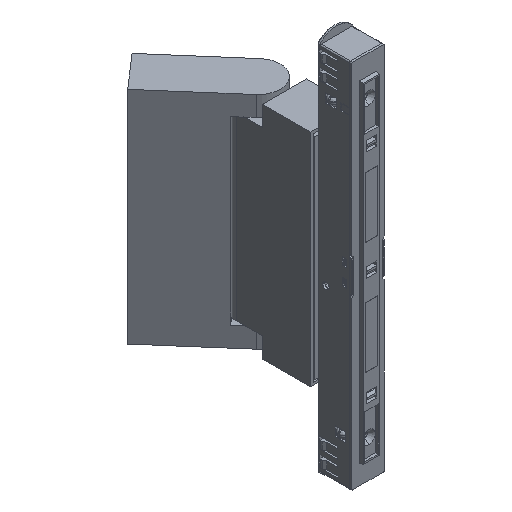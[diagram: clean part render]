
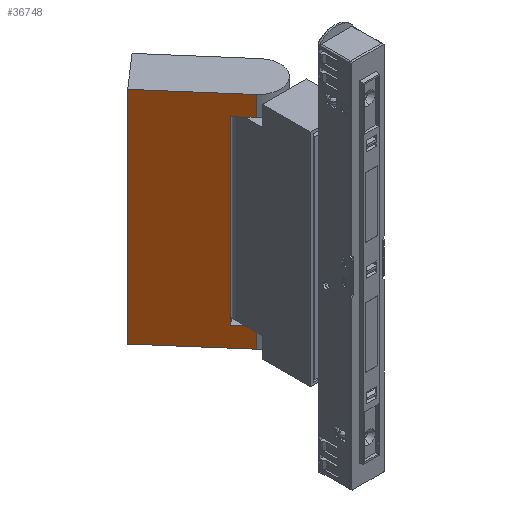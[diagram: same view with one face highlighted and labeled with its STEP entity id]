
A CAD part, isometric view. The second image highlights one B-rep face of the part: STEP entity #36748.
In plain terms, the highlighted planar face has unit normal (-0.755, -0.656, 0) as drawn and (1, 0, 0) by its records, which use the part's own axes.
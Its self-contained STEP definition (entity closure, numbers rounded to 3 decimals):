
#618 = AXIS2_PLACEMENT_3D ( 'NONE', #59045, #7914, #30719 ) ;
#1501 = LINE ( 'NONE', #24325, #62746 ) ;
#1667 = LINE ( 'NONE', #24496, #40228 ) ;
#2932 = EDGE_CURVE ( 'NONE', #6901, #56136, #47672, .T. ) ;
#3239 = EDGE_CURVE ( 'NONE', #33633, #15413, #51066, .T. ) ;
#5920 = CARTESIAN_POINT ( 'NONE',  ( 11., 17.2, -55. ) ) ;
#6901 = VERTEX_POINT ( 'NONE', #38939 ) ;
#7914 = DIRECTION ( 'NONE',  ( 1., 0., 0. ) ) ;
#8722 = ORIENTED_EDGE ( 'NONE', *, *, #40967, .F. ) ;
#11468 = VECTOR ( 'NONE', #21780, 1000. ) ;
#13222 = LINE ( 'NONE', #36018, #29193 ) ;
#13535 = FACE_OUTER_BOUND ( 'NONE', #29089, .T. ) ;
#13950 = VERTEX_POINT ( 'NONE', #18677 ) ;
#15413 = VERTEX_POINT ( 'NONE', #5920 ) ;
#16639 = EDGE_CURVE ( 'NONE', #56136, #45947, #48280, .T. ) ;
#18577 = CARTESIAN_POINT ( 'NONE',  ( 11., 8.2, -45. ) ) ;
#18677 = CARTESIAN_POINT ( 'NONE',  ( 11., 17.2, -45. ) ) ;
#19311 = DIRECTION ( 'NONE',  ( 0., 1., 0. ) ) ;
#19658 = VECTOR ( 'NONE', #19311, 1000. ) ;
#19923 = DIRECTION ( 'NONE',  ( 0., 0., -1. ) ) ;
#19975 = CARTESIAN_POINT ( 'NONE',  ( 11., 17.2, 45. ) ) ;
#21780 = DIRECTION ( 'NONE',  ( 0., 1., 0. ) ) ;
#22297 = VECTOR ( 'NONE', #22729, 1000. ) ;
#22729 = DIRECTION ( 'NONE',  ( 0., 1., 0. ) ) ;
#24325 = CARTESIAN_POINT ( 'NONE',  ( 11., 17.2, -55. ) ) ;
#24496 = CARTESIAN_POINT ( 'NONE',  ( 11., -28.2, -55. ) ) ;
#29089 = EDGE_LOOP ( 'NONE', ( #57340, #57795, #42123, #67774, #8722, #35600, #51096, #59832 ) ) ;
#29193 = VECTOR ( 'NONE', #58730, 1000. ) ;
#30719 = DIRECTION ( 'NONE',  ( 0., 0., -1. ) ) ;
#30801 = CARTESIAN_POINT ( 'NONE',  ( 11., 17.2, 55. ) ) ;
#32244 = EDGE_CURVE ( 'NONE', #34115, #57072, #13222, .T. ) ;
#32681 = CARTESIAN_POINT ( 'NONE',  ( 11., 8.2, -45. ) ) ;
#33633 = VERTEX_POINT ( 'NONE', #35846 ) ;
#34115 = VERTEX_POINT ( 'NONE', #32681 ) ;
#35600 = ORIENTED_EDGE ( 'NONE', *, *, #3239, .T. ) ;
#35846 = CARTESIAN_POINT ( 'NONE',  ( 11., -28.2, -55. ) ) ;
#36018 = CARTESIAN_POINT ( 'NONE',  ( 11., 8.2, 45. ) ) ;
#36324 = PLANE ( 'NONE',  #618 ) ;
#36748 = ADVANCED_FACE ( 'NONE', ( #13535 ), #36324, .T. ) ;
#37173 = CARTESIAN_POINT ( 'NONE',  ( 11., 8.2, 45. ) ) ;
#38939 = CARTESIAN_POINT ( 'NONE',  ( 11., -28.2, 55. ) ) ;
#39366 = EDGE_CURVE ( 'NONE', #57072, #45947, #50110, .T. ) ;
#40228 = VECTOR ( 'NONE', #47248, 1000. ) ;
#40967 = EDGE_CURVE ( 'NONE', #33633, #6901, #1667, .T. ) ;
#41362 = DIRECTION ( 'NONE',  ( 0., -1., 0. ) ) ;
#42123 = ORIENTED_EDGE ( 'NONE', *, *, #16639, .F. ) ;
#44918 = VECTOR ( 'NONE', #19923, 1000. ) ;
#45947 = VERTEX_POINT ( 'NONE', #19975 ) ;
#47076 = DIRECTION ( 'NONE',  ( 0., 0., -1. ) ) ;
#47248 = DIRECTION ( 'NONE',  ( 0., 0., 1. ) ) ;
#47672 = LINE ( 'NONE', #70430, #19658 ) ;
#48280 = LINE ( 'NONE', #71037, #44918 ) ;
#50110 = LINE ( 'NONE', #72882, #11468 ) ;
#51066 = LINE ( 'NONE', #73839, #22297 ) ;
#51096 = ORIENTED_EDGE ( 'NONE', *, *, #68702, .F. ) ;
#56136 = VERTEX_POINT ( 'NONE', #30801 ) ;
#57072 = VERTEX_POINT ( 'NONE', #37173 ) ;
#57340 = ORIENTED_EDGE ( 'NONE', *, *, #32244, .T. ) ;
#57795 = ORIENTED_EDGE ( 'NONE', *, *, #39366, .T. ) ;
#58730 = DIRECTION ( 'NONE',  ( 0., 0., 1. ) ) ;
#59045 = CARTESIAN_POINT ( 'NONE',  ( 11., -28.2, -55. ) ) ;
#59832 = ORIENTED_EDGE ( 'NONE', *, *, #67428, .T. ) ;
#62746 = VECTOR ( 'NONE', #47076, 1000. ) ;
#65003 = VECTOR ( 'NONE', #41362, 1000. ) ;
#67428 = EDGE_CURVE ( 'NONE', #13950, #34115, #69705, .T. ) ;
#67774 = ORIENTED_EDGE ( 'NONE', *, *, #2932, .F. ) ;
#68702 = EDGE_CURVE ( 'NONE', #13950, #15413, #1501, .T. ) ;
#69705 = LINE ( 'NONE', #18577, #65003 ) ;
#70430 = CARTESIAN_POINT ( 'NONE',  ( 11., 0., 55. ) ) ;
#71037 = CARTESIAN_POINT ( 'NONE',  ( 11., 17.2, -55. ) ) ;
#72882 = CARTESIAN_POINT ( 'NONE',  ( 11., 28.2, 45. ) ) ;
#73839 = CARTESIAN_POINT ( 'NONE',  ( 11., 0., -55. ) ) ;
